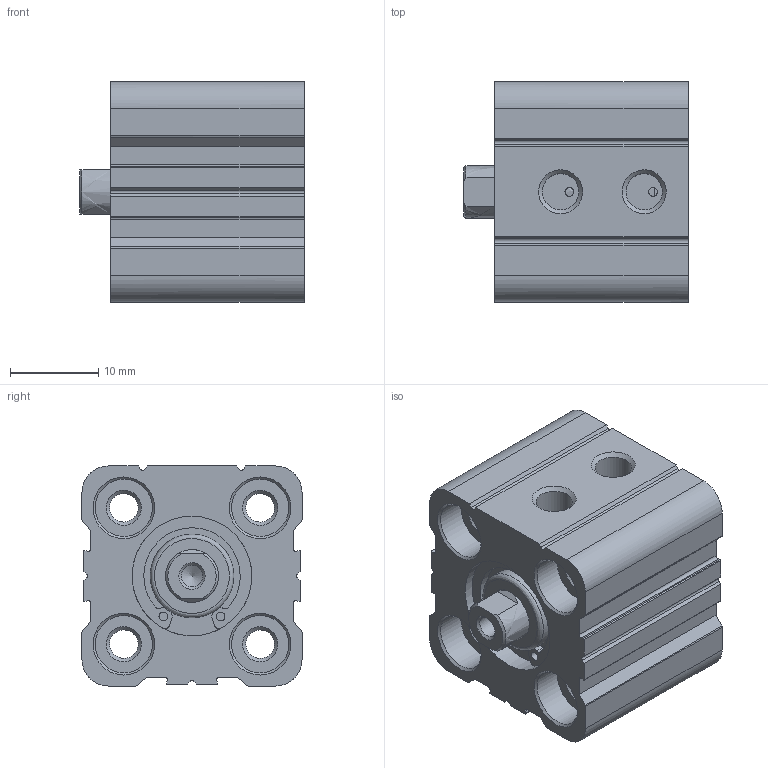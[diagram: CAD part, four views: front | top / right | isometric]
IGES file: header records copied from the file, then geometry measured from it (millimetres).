
Global section: file name: DSK012.0005.01; native system: Autodesk Inventor 2015; preprocessor: unknown; organization: PNEUMAT SYSTEM; date: 20140910.110318; units: millimetre
Bounding box: 25.5 x 25 x 25 mm (x, y, z)
Volume: 10787.8 mm3; surface area: 6400.9 mm2
Topology: 2 solids, 2 shells, 167 faces, 486 edges, 339 vertices
Faces by surface type: bspline 167
